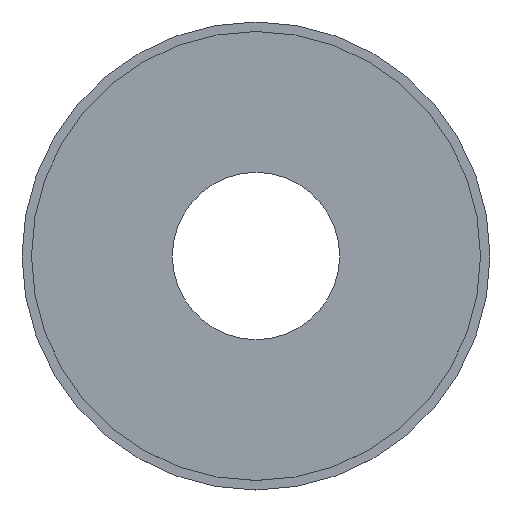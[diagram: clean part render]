
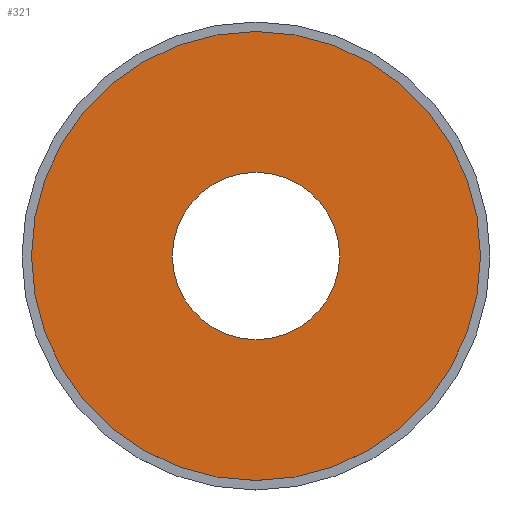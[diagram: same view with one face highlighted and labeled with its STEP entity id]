
A CAD part, top view. The second image highlights one B-rep face of the part: STEP entity #321.
In plain terms, the highlighted planar face has unit normal (0, 0, 1).
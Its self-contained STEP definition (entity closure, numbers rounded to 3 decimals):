
#243 = VERTEX_POINT('',#244);
#244 = CARTESIAN_POINT('',(23.35,17.2,1.2));
#250 = EDGE_CURVE('',#243,#243,#251,.T.);
#251 = CIRCLE('',#252,6.15);
#252 = AXIS2_PLACEMENT_3D('',#253,#254,#255);
#253 = CARTESIAN_POINT('',(17.2,17.2,1.2));
#254 = DIRECTION('',(0.,0.,-1.));
#255 = DIRECTION('',(1.,0.,0.));
#321 = ADVANCED_FACE('',(#322,#333),#336,.T.);
#322 = FACE_BOUND('',#323,.T.);
#323 = EDGE_LOOP('',(#324));
#324 = ORIENTED_EDGE('',*,*,#325,.T.);
#325 = EDGE_CURVE('',#326,#326,#328,.T.);
#326 = VERTEX_POINT('',#327);
#327 = CARTESIAN_POINT('',(33.7,17.2,1.2));
#328 = CIRCLE('',#329,16.5);
#329 = AXIS2_PLACEMENT_3D('',#330,#331,#332);
#330 = CARTESIAN_POINT('',(17.2,17.2,1.2));
#331 = DIRECTION('',(0.,0.,1.));
#332 = DIRECTION('',(1.,0.,0.));
#333 = FACE_BOUND('',#334,.T.);
#334 = EDGE_LOOP('',(#335));
#335 = ORIENTED_EDGE('',*,*,#250,.T.);
#336 = PLANE('',#337);
#337 = AXIS2_PLACEMENT_3D('',#338,#339,#340);
#338 = CARTESIAN_POINT('',(17.2,17.2,1.2));
#339 = DIRECTION('',(0.,0.,1.));
#340 = DIRECTION('',(1.,0.,0.));
